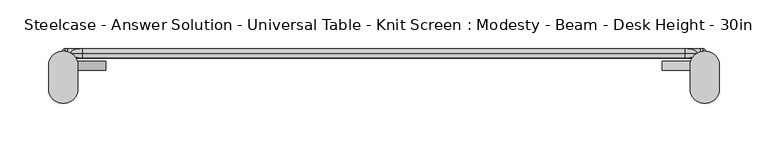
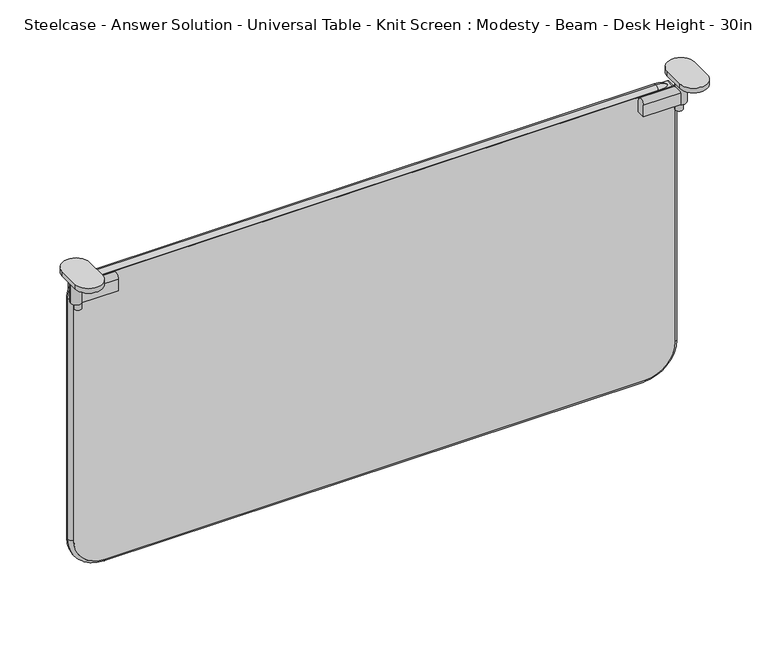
"""IFC4 building model written with IfcOpenShell, lengths in millimetres: furniture geometry, Steelcase - Answer Solution - Universal Table - Knit Screen : Modesty - Beam - Desk Height - 30in."""

from ifc_helpers import new_model, si_unit, point, frame, frame_2d, origin, place, context, project, spatial, polyline, circle_curve, ellipse_curve, trimmed, segment, composite_curve, outline, extrude, source, transform, mapped, element, save
from ifc_brep_helpers import plane_surface, cylinder_surface, revolved_surface, advanced_brep


def steelcase_answer_solution_universal_table_knit_screen_2ed60895(model_context):
    return source(origin(), model_context, "Body", "SolidModel", [
        extrude(outline(composite_curve([segment(polyline([(-29.128946, 557.1716837), (-29.128946, 570.5329841)]), True, "CONTINUOUS"), segment(trimmed(circle_curve(frame_2d((-24.4350465, 570.5329841)), 4.6938995), [point((-29.128946, 570.5329841))], [point((-19.7411469, 570.5329841))], False, "CARTESIAN"), True, "CONTINUOUS"), segment(polyline([(-19.7411469, 570.5329841), (-19.7411469, 557.1716837), (-29.128946, 557.1716837)]), True, "CONTINUOUS")], self_intersect=False)), frame((664.2167228, 0.0, 0.0), z_axis=(1.0, 0.0, 0.0), x_axis=(0.0, 1.0, 0.0)), (0.0, 0.0, 1.0), 43.5285515),
        extrude(outline(composite_curve([segment(trimmed(circle_curve(frame_2d((705.8143327, -24.4352196)), 3.96875), [point((709.7830827, -24.4352196))], [point((701.8455827, -24.4352196))], False, "CARTESIAN"), True, "CONTINUOUS"), segment(trimmed(circle_curve(frame_2d((705.8143327, -24.4352196)), 3.96875), [point((701.8455827, -24.4352196))], [point((709.7830827, -24.4352196))], False, "CARTESIAN"), True, "CONTINUOUS")], self_intersect=False)), frame((0.0, 0.0, 549.0915626), z_axis=(0.0, 0.0, 1.0), x_axis=(1.0, 0.0, 0.0)), (0.0, 0.0, 1.0), 8.0801211),
        extrude(outline(composite_curve([segment(trimmed(circle_curve(frame_2d((707.7452743, -24.4352196)), 5.8800133), [point((713.6252876, -24.4352196))], [point((701.865261, -24.4352196))], False, "CARTESIAN"), True, "CONTINUOUS"), segment(trimmed(circle_curve(frame_2d((707.7452743, -24.4352196)), 5.8800133), [point((701.865261, -24.4352196))], [point((713.6252876, -24.4352196))], False, "CARTESIAN"), True, "CONTINUOUS")], self_intersect=False)), frame((0.0, 0.0, 557.1716837), z_axis=(0.0, 0.0, 1.0), x_axis=(1.0, 0.0, 0.0)), (0.0, 0.0, 1.0), 34.3007611),
        extrude(outline(composite_curve([segment(polyline([(722.801332, -24.6349615), (722.801332, -48.0866189)]), True, "CONTINUOUS"), segment(trimmed(circle_curve(frame_2d((707.745565, -48.0866189)), 15.0557671), [point((722.801332, -48.0866189))], [point((692.6897979, -48.0866189))], False, "CARTESIAN"), True, "CONTINUOUS"), segment(polyline([(692.6897979, -48.0866189), (692.6897979, -24.6349615)]), True, "CONTINUOUS"), segment(trimmed(circle_curve(frame_2d((707.745565, -24.6349615)), 15.0557671), [point((692.6897979, -24.6349615))], [point((722.801332, -24.6349615))], False, "CARTESIAN"), True, "CONTINUOUS")], self_intersect=False)), frame((0.0, 0.0, 591.4724448), z_axis=(0.0, 0.0, 1.0), x_axis=(1.0, 0.0, 0.0)), (0.0, 0.0, 1.0), 5.4275552),
        extrude(outline(composite_curve([segment(polyline([(-29.128946, 557.1716837), (-29.128946, 570.5329841)]), True, "CONTINUOUS"), segment(trimmed(circle_curve(frame_2d((-24.4350465, 570.5329841)), 4.6938995), [point((-29.128946, 570.5329841))], [point((-19.7411469, 570.5329841))], False, "CARTESIAN"), True, "CONTINUOUS"), segment(polyline([(-19.7411469, 570.5329841), (-19.7411469, 557.1716837), (-29.128946, 557.1716837)]), True, "CONTINUOUS")], self_intersect=False)), frame((47.6108911, 0.0, 0.0), z_axis=(1.0, 0.0, 0.0), x_axis=(0.0, 1.0, 0.0)), (0.0, 0.0, 1.0), 43.5285515),
        extrude(outline(composite_curve([segment(trimmed(circle_curve(frame_2d((49.5418327, -24.4352196)), 3.96875), [point((45.5730827, -24.4352196))], [point((53.5105827, -24.4352196))], False, "CARTESIAN"), True, "CONTINUOUS"), segment(trimmed(circle_curve(frame_2d((49.5418327, -24.4352196)), 3.96875), [point((53.5105827, -24.4352196))], [point((45.5730827, -24.4352196))], False, "CARTESIAN"), True, "CONTINUOUS")], self_intersect=False)), frame((0.0, 0.0, 549.0915626), z_axis=(0.0, 0.0, 1.0), x_axis=(1.0, 0.0, 0.0)), (0.0, 0.0, 1.0), 8.0801211),
        extrude(outline(composite_curve([segment(trimmed(circle_curve(frame_2d((47.6108911, -24.4352196)), 5.8800133), [point((41.7308778, -24.4352196))], [point((53.4909043, -24.4352196))], False, "CARTESIAN"), True, "CONTINUOUS"), segment(trimmed(circle_curve(frame_2d((47.6108911, -24.4352196)), 5.8800133), [point((53.4909043, -24.4352196))], [point((41.7308778, -24.4352196))], False, "CARTESIAN"), True, "CONTINUOUS")], self_intersect=False)), frame((0.0, 0.0, 557.1716837), z_axis=(0.0, 0.0, 1.0), x_axis=(1.0, 0.0, 0.0)), (0.0, 0.0, 1.0), 34.3007611),
        extrude(outline(composite_curve([segment(trimmed(circle_curve(frame_2d((47.6106004, -24.6349615)), 15.0557671), [point((32.5548333, -24.6349615))], [point((62.6663674, -24.6349615))], False, "CARTESIAN"), True, "CONTINUOUS"), segment(polyline([(62.6663674, -24.6349615), (62.6663674, -48.0866189)]), True, "CONTINUOUS"), segment(trimmed(circle_curve(frame_2d((47.6106004, -48.0866189)), 15.0557671), [point((62.6663674, -48.0866189))], [point((32.5548333, -48.0866189))], False, "CARTESIAN"), True, "CONTINUOUS"), segment(polyline([(32.5548333, -48.0866189), (32.5548333, -24.6349615)]), True, "CONTINUOUS")], self_intersect=False)), frame((0.0, 0.0, 591.4724448), z_axis=(0.0, 0.0, 1.0), x_axis=(1.0, 0.0, 0.0)), (0.0, 0.0, 1.0), 5.4275552),
        extrude(outline(composite_curve([segment(trimmed(circle_curve(frame_2d((275.3734529, 672.7969049)), 33.0004615), [point((242.3729913, 672.7969049))], [point((275.3734529, 705.7973664))], False, "CARTESIAN"), True, "CONTINUOUS"), segment(polyline([(275.3734529, 705.7973664), (568.7143507, 705.7973664)]), True, "CONTINUOUS"), segment(trimmed(circle_curve(frame_2d((568.7143507, 702.9924906)), 2.8048758), [point((568.7143507, 705.7973664))], [point((571.5192266, 702.9924906))], False, "CARTESIAN"), True, "CONTINUOUS"), segment(polyline([(571.5192266, 702.9924906), (571.5192266, 51.8743664)]), True, "CONTINUOUS"), segment(trimmed(circle_curve(frame_2d((569.2036591, 51.8743664)), 2.3155675), [point((571.5192266, 51.8743664))], [point((569.2036591, 49.5587989))], False, "CARTESIAN"), True, "CONTINUOUS"), segment(polyline([(569.2036591, 49.5587989), (276.2900738, 49.5587989)]), True, "CONTINUOUS"), segment(trimmed(circle_curve(frame_2d((276.2900738, 83.4758814)), 33.9170825), [point((276.2900738, 49.5587989))], [point((242.3729913, 83.4758814))], False, "CARTESIAN"), True, "CONTINUOUS"), segment(polyline([(242.3729913, 83.4758814), (242.3729913, 672.7969049)]), True, "CONTINUOUS")], self_intersect=False)), frame((0.0, -16.5783031, 0.0), z_axis=(0.0, 1.0, 0.0), x_axis=(0.0, 0.0, 1.0)), (0.0, 0.0, 1.0), 9.6878455),
        advanced_brep(
        [(45.5730839, -11.7343804, 554.0906591), (66.9873664, -11.7343804, 575.5049416), (66.9873664, -6.8904577, 571.5192266), (49.5587989, -6.8904577, 554.0906591), (49.5587989, -16.5783031, 554.0906591), (66.9873664, -16.5783031, 571.5192266), (49.5587989, -6.8904577, 276.2900738), (45.5730839, -11.7343804, 276.2900738), (49.5587989, -16.5783031, 276.2900738), (83.4758814, -11.7343804, 238.3872763), (83.4758814, -6.8904577, 242.3729913), (83.4758814, -16.5783031, 242.3729913), (672.7969049, -6.8904577, 242.3729913), (672.7969049, -11.7343804, 238.3872763), (672.7969049, -16.5783031, 242.3729913), (709.7830815, -11.7343804, 275.3734529), (705.7973664, -6.8904577, 275.3734529), (705.7973664, -16.5783031, 275.3734529), (705.7973664, -6.8904577, 553.6013507), (709.7830815, -11.7343804, 553.6013507), (705.7973664, -16.5783031, 553.6013507), (687.8794906, -11.7343804, 575.5049416), (687.8794906, -6.8904577, 571.5192266), (687.8794906, -16.5783031, 571.5192266)],
        [
            (0, 1, circle_curve(frame((66.9873664, -11.7343804, 554.0906591), z_axis=(0.0, 1.0, 0.0), x_axis=(0.0, 0.0, 1.0)), 21.4142825)),
            (1, 2, circle_curve(frame((66.9873664, -11.7343804, 570.5686238), z_axis=(-1.0, 0.0, 0.0), x_axis=(0.0, 0.0, 1.0)), 4.9363178)),
            (2, 3, circle_curve(frame((66.9873664, -6.8904577, 554.0906591), z_axis=(0.0, -1.0, 0.0), x_axis=(0.0, 0.0, 1.0)), 17.4285675)),
            (3, 0, circle_curve(frame((50.5094016, -11.7343804, 554.0906591), z_axis=(0.0, 0.0, 1.0), x_axis=(-1.0, 0.0, 0.0)), 4.9363178)),
            (4, 5, circle_curve(frame((66.9873664, -16.5783031, 554.0906591), z_axis=(0.0, 1.0, 0.0), x_axis=(0.0, 0.0, 1.0)), 17.4285675)),
            (5, 1, circle_curve(frame((66.9873664, -11.7343804, 570.5686238), z_axis=(-1.0, 0.0, 0.0), x_axis=(0.0, 0.0, 1.0)), 4.9363178)),
            (0, 4, circle_curve(frame((50.5094016, -11.7343804, 554.0906591), z_axis=(0.0, 0.0, 1.0), x_axis=(-1.0, 0.0, 0.0)), 4.9363178)),
            (2, 5),
            (4, 3),
            (3, 6),
            (6, 7, circle_curve(frame((50.5094016, -11.7343804, 276.2900738), z_axis=(0.0, 0.0, 1.0), x_axis=(-1.0, 0.0, 0.0)), 4.9363178)),
            (7, 0),
            (7, 8, circle_curve(frame((50.5094016, -11.7343804, 276.2900738), z_axis=(0.0, 0.0, 1.0), x_axis=(-1.0, 0.0, 0.0)), 4.9363178)),
            (8, 4),
            (8, 6),
            (9, 7, circle_curve(frame((83.4758814, -11.7343804, 276.2900738), z_axis=(0.0, 1.0, 0.0), x_axis=(-1.0, 0.0, 0.0)), 37.9027975)),
            (6, 10, circle_curve(frame((83.4758814, -6.8904577, 276.2900738), z_axis=(0.0, -1.0, 0.0), x_axis=(-1.0, 0.0, 0.0)), 33.9170825)),
            (10, 9, circle_curve(frame((83.4758814, -11.7343804, 243.323594), z_axis=(-1.0, 0.0, 0.0), x_axis=(0.0, 0.0, -1.0)), 4.9363178)),
            (11, 8, circle_curve(frame((83.4758814, -16.5783031, 276.2900738), z_axis=(0.0, 1.0, 0.0), x_axis=(-1.0, 0.0, 0.0)), 33.9170825)),
            (9, 11, circle_curve(frame((83.4758814, -11.7343804, 243.323594), z_axis=(-1.0, 0.0, 0.0), x_axis=(0.0, 0.0, -1.0)), 4.9363178)),
            (11, 10),
            (10, 12),
            (12, 13, circle_curve(frame((672.7969049, -11.7343804, 243.323594), z_axis=(-1.0, 0.0, 0.0), x_axis=(0.0, 0.0, -1.0)), 4.9363178)),
            (13, 9),
            (13, 14, circle_curve(frame((672.7969049, -11.7343804, 243.323594), z_axis=(-1.0, 0.0, 0.0), x_axis=(0.0, 0.0, -1.0)), 4.9363178)),
            (14, 11),
            (14, 12),
            (15, 13, circle_curve(frame((672.7969049, -11.7343804, 275.3734529), z_axis=(0.0, 1.0, 0.0), x_axis=(0.0, 0.0, -1.0)), 36.9861766)),
            (12, 16, circle_curve(frame((672.7969049, -6.8904577, 275.3734529), z_axis=(0.0, -1.0, 0.0), x_axis=(0.0, 0.0, -1.0)), 33.0004615)),
            (16, 15, circle_curve(frame((704.8467637, -11.7343804, 275.3734529), z_axis=(0.0, 0.0, -1.0), x_axis=(1.0, 0.0, 0.0)), 4.9363178)),
            (17, 14, circle_curve(frame((672.7969049, -16.5783031, 275.3734529), z_axis=(0.0, 1.0, 0.0), x_axis=(0.0, 0.0, -1.0)), 33.0004615)),
            (15, 17, circle_curve(frame((704.8467637, -11.7343804, 275.3734529), z_axis=(0.0, 0.0, -1.0), x_axis=(1.0, 0.0, 0.0)), 4.9363178)),
            (17, 16),
            (16, 18),
            (18, 19, circle_curve(frame((704.8467637, -11.7343804, 553.6013507), z_axis=(0.0, 0.0, -1.0), x_axis=(1.0, 0.0, 0.0)), 4.9363178)),
            (19, 15),
            (19, 20, circle_curve(frame((704.8467637, -11.7343804, 553.6013507), z_axis=(0.0, 0.0, -1.0), x_axis=(1.0, 0.0, 0.0)), 4.9363178)),
            (20, 17),
            (20, 18),
            (21, 19, circle_curve(frame((687.8794906, -11.7343804, 553.6013507), z_axis=(0.0, 1.0, 0.0), x_axis=(1.0, 0.0, 0.0)), 21.9035909)),
            (18, 22, circle_curve(frame((687.8794906, -6.8904577, 553.6013507), z_axis=(0.0, -1.0, 0.0), x_axis=(1.0, 0.0, 0.0)), 17.9178758)),
            (22, 21, circle_curve(frame((687.8794906, -11.7343804, 570.5686238), z_axis=(1.0, 0.0, 0.0), x_axis=(0.0, 0.0, 1.0)), 4.9363178)),
            (23, 20, circle_curve(frame((687.8794906, -16.5783031, 553.6013507), z_axis=(0.0, 1.0, 0.0), x_axis=(1.0, 0.0, 0.0)), 17.9178758)),
            (21, 23, circle_curve(frame((687.8794906, -11.7343804, 570.5686238), z_axis=(1.0, 0.0, 0.0), x_axis=(0.0, 0.0, 1.0)), 4.9363178)),
            (23, 22),
            (22, 2),
            (1, 21),
            (5, 23),
        ],
        [
            revolved_surface(trimmed(ellipse_curve(frame((66.9873664, -11.7343804, 570.5686238), z_axis=(1.0, 0.0, 0.0), x_axis=(0.0, 0.0, 1.0)), 4.9363178, 4.9363178), [point((66.9873664, -6.8904577, 571.5192266))], [point((66.9873664, -11.7343804, 575.5049416))], True, "CARTESIAN"), (66.9873664, -11.7343804, 554.0906591), (0.0, -1.0, 0.0)),
            revolved_surface(trimmed(ellipse_curve(frame((66.9873664, -11.7343804, 570.5686238), z_axis=(1.0, 0.0, 0.0), x_axis=(0.0, 0.0, 1.0)), 4.9363178, 4.9363178), [point((66.9873664, -11.7343804, 575.5049416))], [point((66.9873664, -16.5783031, 571.5192266))], True, "CARTESIAN"), (66.9873664, -11.7343804, 554.0906591), (0.0, -1.0, 0.0)),
            revolved_surface(polyline([(66.9873664, -16.5783031, 571.5192266), (66.9873664, -6.8904577, 571.5192266)]), (66.9873664, -11.7343804, 554.0906591), (0.0, -1.0, 0.0)),
            cylinder_surface(frame((50.5094016, -11.7343804, 554.0906591), z_axis=(0.0, 0.0, 1.0), x_axis=(-1.0, 0.0, 0.0)), 4.9363178),
            plane_surface(frame((49.5587989, -16.5783031, 554.0906591), z_axis=(1.0, 0.0, 0.0), x_axis=(0.0, 0.0, -1.0))),
            revolved_surface(trimmed(ellipse_curve(frame((50.5094016, -11.7343804, 276.2900738), z_axis=(0.0, 0.0, 1.0), x_axis=(-1.0, 0.0, 0.0)), 4.9363178, 4.9363178), [point((49.5587989, -6.8904577, 276.2900738))], [point((45.5730839, -11.7343804, 276.2900738))], True, "CARTESIAN"), (83.4758814, -11.7343804, 276.2900738), (0.0, -1.0, 0.0)),
            revolved_surface(trimmed(ellipse_curve(frame((50.5094016, -11.7343804, 276.2900738), z_axis=(0.0, 0.0, 1.0), x_axis=(-1.0, 0.0, 0.0)), 4.9363178, 4.9363178), [point((45.5730839, -11.7343804, 276.2900738))], [point((49.5587989, -16.5783031, 276.2900738))], True, "CARTESIAN"), (83.4758814, -11.7343804, 276.2900738), (0.0, -1.0, 0.0)),
            revolved_surface(polyline([(49.558798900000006, -16.5783031, 276.2900738), (49.558798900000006, -6.8904577, 276.2900738)]), (83.4758814, -11.7343804, 276.2900738), (0.0, -1.0, 0.0)),
            cylinder_surface(frame((83.4758814, -11.7343804, 243.323594), z_axis=(-1.0, 0.0, 0.0), x_axis=(0.0, 0.0, -1.0)), 4.9363178),
            plane_surface(frame((83.4758814, -16.5783031, 242.3729913), z_axis=(0.0, 0.0, 1.0), x_axis=(1.0, 0.0, 0.0))),
            revolved_surface(trimmed(ellipse_curve(frame((672.7969049, -11.7343804, 243.323594), z_axis=(-1.0, 0.0, 0.0), x_axis=(0.0, 0.0, -1.0)), 4.9363178, 4.9363178), [point((672.7969049, -6.8904577, 242.3729913))], [point((672.7969049, -11.7343804, 238.3872763))], True, "CARTESIAN"), (672.7969049, -11.7343804, 275.3734529), (0.0, -1.0, 0.0)),
            revolved_surface(trimmed(ellipse_curve(frame((672.7969049, -11.7343804, 243.323594), z_axis=(-1.0, 0.0, 0.0), x_axis=(0.0, 0.0, -1.0)), 4.9363178, 4.9363178), [point((672.7969049, -11.7343804, 238.3872763))], [point((672.7969049, -16.5783031, 242.3729913))], True, "CARTESIAN"), (672.7969049, -11.7343804, 275.3734529), (0.0, -1.0, 0.0)),
            revolved_surface(polyline([(672.7969049, -16.5783031, 242.37299140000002), (672.7969049, -6.8904577, 242.37299140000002)]), (672.7969049, -11.7343804, 275.3734529), (0.0, -1.0, 0.0)),
            cylinder_surface(frame((704.8467637, -11.7343804, 275.3734529), z_axis=(0.0, 0.0, -1.0), x_axis=(1.0, 0.0, 0.0)), 4.9363178),
            plane_surface(frame((705.7973664, -16.5783031, 275.3734529), z_axis=(-1.0, 0.0, 0.0), x_axis=(0.0, 0.0, 1.0))),
            revolved_surface(trimmed(ellipse_curve(frame((704.8467637, -11.7343804, 553.6013507), z_axis=(0.0, 0.0, -1.0), x_axis=(1.0, 0.0, 0.0)), 4.9363178, 4.9363178), [point((705.7973664, -6.8904577, 553.6013507))], [point((709.7830815, -11.7343804, 553.6013507))], True, "CARTESIAN"), (687.8794906, -11.7343804, 553.6013507), (0.0, -1.0, 0.0)),
            revolved_surface(trimmed(ellipse_curve(frame((704.8467637, -11.7343804, 553.6013507), z_axis=(0.0, 0.0, -1.0), x_axis=(1.0, 0.0, 0.0)), 4.9363178, 4.9363178), [point((709.7830815, -11.7343804, 553.6013507))], [point((705.7973664, -16.5783031, 553.6013507))], True, "CARTESIAN"), (687.8794906, -11.7343804, 553.6013507), (0.0, -1.0, 0.0)),
            revolved_surface(polyline([(705.7973664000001, -16.5783031, 553.6013507), (705.7973664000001, -6.8904577, 553.6013507)]), (687.8794906, -11.7343804, 553.6013507), (0.0, -1.0, 0.0)),
            cylinder_surface(frame((687.8794906, -11.7343804, 570.5686238), z_axis=(1.0, 0.0, 0.0), x_axis=(0.0, 0.0, 1.0)), 4.9363178),
            plane_surface(frame((687.8794906, -16.5783031, 571.5192266), z_axis=(0.0, 0.0, -1.0), x_axis=(-1.0, 0.0, 0.0))),
        ],
        [
            (0, [[1, 2, 3, 4]]),
            (1, [[5, 6, -1, 7]]),
            (2, [[-3, 8, -5, 9]]),
            (3, [[-4, 10, 11, 12]]),
            (3, [[-7, -12, 13, 14]]),
            (4, [[-9, -14, 15, -10]]),
            (5, [[16, -11, 17, 18]]),
            (6, [[19, -13, -16, 20]]),
            (7, [[-17, -15, -19, 21]]),
            (8, [[-18, 22, 23, 24]]),
            (8, [[-20, -24, 25, 26]]),
            (9, [[-21, -26, 27, -22]]),
            (10, [[28, -23, 29, 30]]),
            (11, [[31, -25, -28, 32]]),
            (12, [[-29, -27, -31, 33]]),
            (13, [[-30, 34, 35, 36]]),
            (13, [[-32, -36, 37, 38]]),
            (14, [[-33, -38, 39, -34]]),
            (15, [[40, -35, 41, 42]]),
            (16, [[43, -37, -40, 44]]),
            (17, [[-41, -39, -43, 45]]),
            (18, [[-42, 46, -2, 47]]),
            (18, [[-44, -47, -6, 48]]),
            (19, [[-45, -48, -8, -46]]),
        ],
    ),
    ])


if __name__ == "__main__":
    model = new_model("IFC4")
    model_context = context("Model", 3, world=origin())
    ifc_project = project(units=[si_unit("LENGTHUNIT", "METRE", prefix="MILLI")], contexts=[model_context])
    site = spatial("IfcSite", under=ifc_project)
    building = spatial("IfcBuilding", under=site)
    placement = place(None, origin())
    steelcase_answer_solution_universal_table_knit_screen_shape = steelcase_answer_solution_universal_table_knit_screen_2ed60895(model_context)
    element("IfcFurniture", 1, ObjectType="Steelcase - Answer Solution - Universal Table - Knit Screen : Modesty - Beam - Desk Height - 30in", at=placement, inside=building, context=model_context, shape_type="MappedRepresentation", body=[
        mapped(steelcase_answer_solution_universal_table_knit_screen_shape, transform((0.0, 0.0, 0.0), x_axis=(1.0, 0.0, 0.0), y_axis=(0.0, 1.0, 0.0), z_axis=(0.0, 0.0, 1.0))),
    ])
    save(model, "model.ifc")
